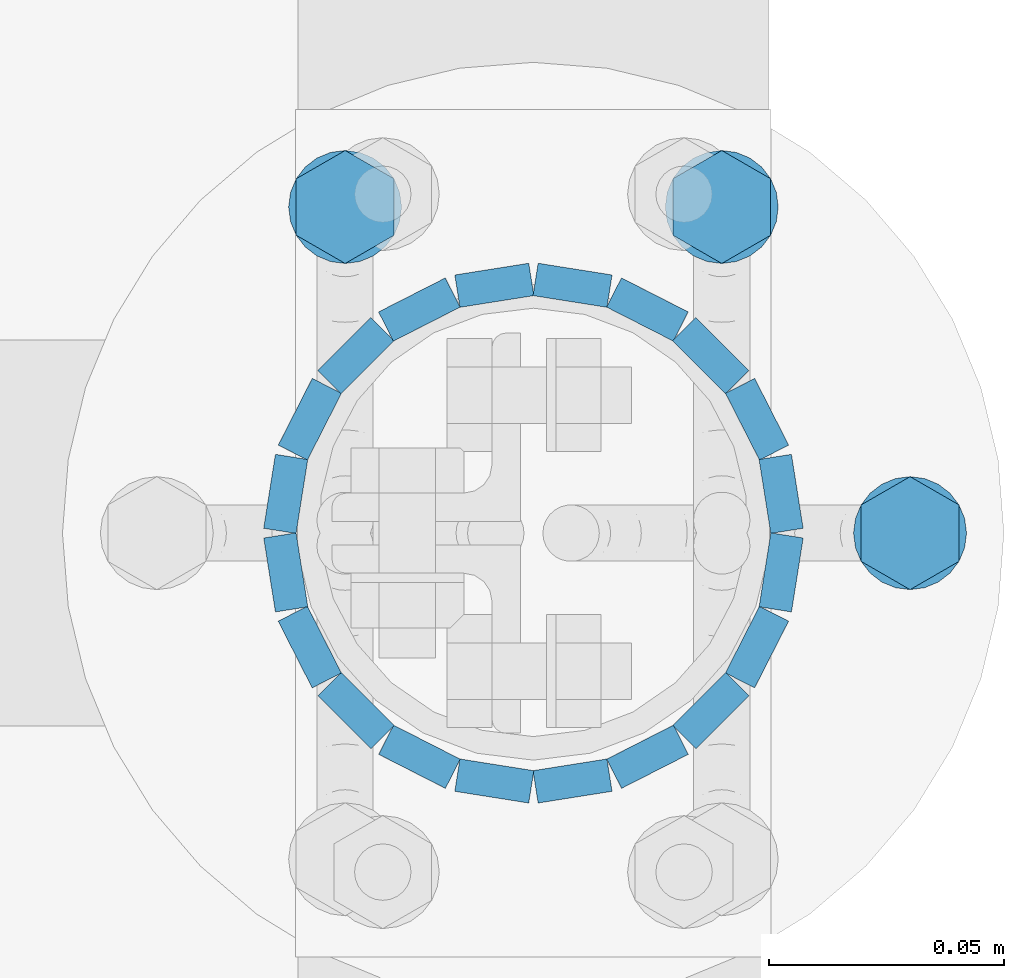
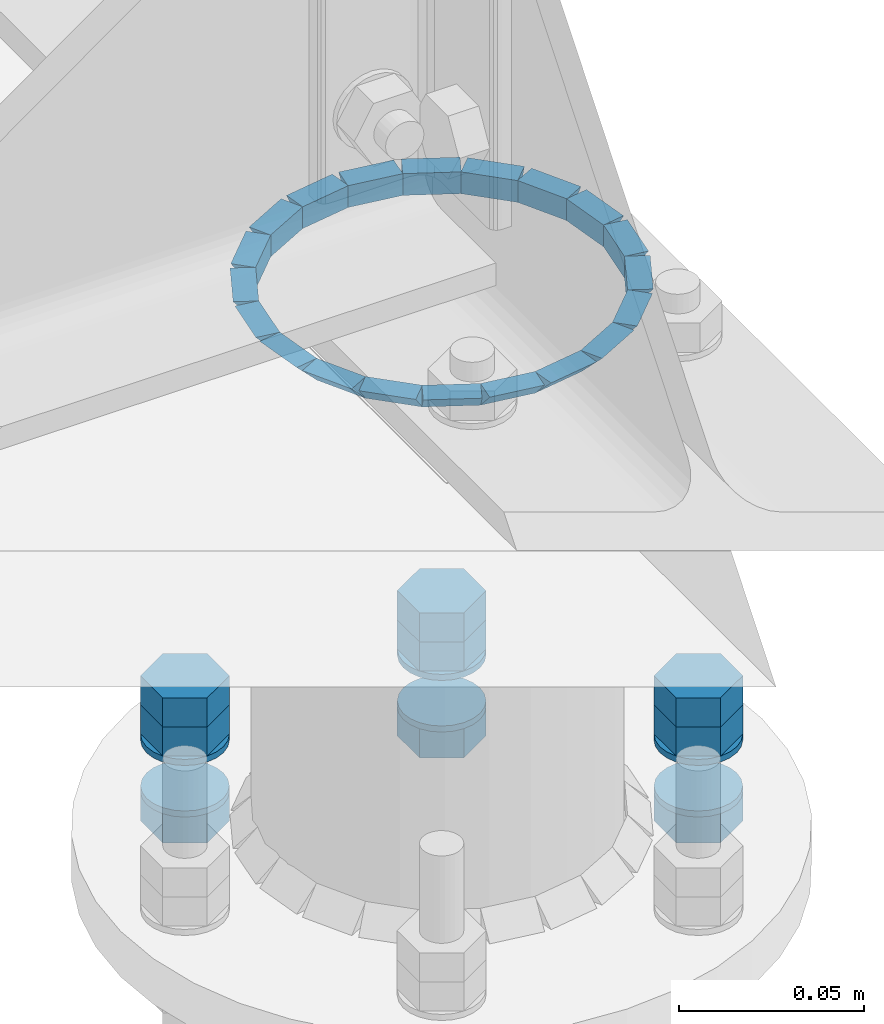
# One storey, part 29 of 84: 40 fasteners, 15 mechanical fasteners.
"""IFC4 building model written with IfcOpenShell, lengths in metres."""

from ifc_helpers import new_model, si_unit, frame, origin_with_axes, place, context, project, spatial, polyline, outline, extrude, type_object, element, save


model = new_model("IFC4")

# Units and contexts
model_context = context("Model", 3, precision=1e-05, world=origin_with_axes())
ifc_project = project(units=[si_unit("LENGTHUNIT", "METRE"), si_unit("AREAUNIT", "SQUARE_METRE"), si_unit("VOLUMEUNIT", "CUBIC_METRE"), si_unit("MASSUNIT", "GRAM", prefix="KILO"), si_unit("TIMEUNIT", "SECOND"), si_unit("PLANEANGLEUNIT", "RADIAN"), si_unit("SOLIDANGLEUNIT", "STERADIAN"), si_unit("THERMODYNAMICTEMPERATUREUNIT", "DEGREE_CELSIUS")], contexts=[model_context])

# Site, building, storey
placement_1 = place(None, origin_with_axes())
site = spatial("IfcSite", under=ifc_project, at=placement_1, Name="Italia", CompositionType="ELEMENT")
building = spatial("IfcBuilding", under=site, at=placement_1, Name="Tettoia", CompositionType="ELEMENT")
storey_placement = place(None, frame((0.0, 0.0, 4.199999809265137), z_axis=(0.0, 0.0, 1.0), x_axis=(1.0, 0.0, 0.0)))
storey = spatial("IfcBuildingStorey", under=building, at=storey_placement, Name="Storey 1", CompositionType="ELEMENT", Elevation=4.199999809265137)

# Mechanical fasteners
mechanical_fastener_type_1 = type_object("IfcMechanicalFastenerType", Name="Collegamento -004_0104", PredefinedType="BOLT")
placement_2 = place(placement_1, origin_with_axes())
mechanical_fastener_1_placement = place(placement_2, origin_with_axes())
element("IfcMechanicalFastener", 1, at=mechanical_fastener_1_placement, inside=storey, type_object=mechanical_fastener_type_1, Name="Collegamento -004_0104", NominalDiameter=0.0119999, context=model_context, shape_type="SweptSolid", body=[
    extrude(outline(polyline([(0.0, 0.0), (-0.0120001, 0.0), (-0.0180001, 0.0103922), (-0.0120001, 0.0207844), (0.0, 0.0207844), (0.00600004, 0.0103922), (0.0, 0.0)])), frame((11.3804, 4.656, 4.017), z_axis=(0.0, 0.0, 1.0), x_axis=(0.0, 1.0, 0.0)), (0.0, 0.0, 1.0), 0.00959969),
])
mechanical_fastener_type_2 = type_object("IfcMechanicalFastenerType", Name="Collegamento -004_0104", PredefinedType="BOLT")
mechanical_fastener_2_placement = place(placement_2, origin_with_axes())
element("IfcMechanicalFastener", 2, at=mechanical_fastener_2_placement, inside=storey, type_object=mechanical_fastener_type_2, Name="Collegamento -004_0104", NominalDiameter=0.0119999, context=model_context, shape_type="SweptSolid", body=[
    extrude(outline(polyline([(0.0, 0.0), (-0.0120001, 0.0), (-0.0180001, 0.0103922), (-0.0120001, 0.0207844), (0.0, 0.0207844), (0.00600004, 0.0103922), (0.0, 0.0)])), frame((11.3804, 4.656, 4.0266), z_axis=(0.0, 0.0, 1.0), x_axis=(0.0, 1.0, 0.0)), (0.0, 0.0, 1.0), 0.00960016),
])
mechanical_fastener_type_3 = type_object("IfcMechanicalFastenerType", Name="Collegamento -004_0104", PredefinedType="BOLT")
mechanical_fastener_3_placement = place(placement_2, origin_with_axes())
element("IfcMechanicalFastener", 3, at=mechanical_fastener_3_placement, inside=storey, type_object=mechanical_fastener_type_3, Name="Collegamento -004_0104", NominalDiameter=0.0119999, context=model_context, shape_type="SweptSolid", body=[
    extrude(outline(polyline([(0.0, 0.0), (-0.0120001, 0.0), (-0.0180001, 0.0103922), (-0.0120001, 0.0207844), (0.0, 0.0207844), (0.00600004, 0.0103922), (0.0, 0.0)])), frame((11.3804, 4.656, 3.9884), z_axis=(0.0, 0.0, 1.0), x_axis=(0.0, 1.0, 0.0)), (0.0, 0.0, 1.0), 0.00959992),
])
mechanical_fastener_type_4 = type_object("IfcMechanicalFastenerType", Name="Collegamento -004_0104", PredefinedType="BOLT")
mechanical_fastener_4_placement = place(placement_2, origin_with_axes())
element("IfcMechanicalFastener", 4, at=mechanical_fastener_4_placement, inside=storey, type_object=mechanical_fastener_type_4, Name="Collegamento -004_0104", NominalDiameter=0.024, context=model_context, shape_type="SweptSolid", body=[
    extrude(outline(polyline([(0.0, 0.0), (-0.000409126, -0.00310612), (-0.00160789, -0.00599957), (-0.00351477, -0.00848484), (-0.00600004, -0.0103922), (-0.00889444, -0.011591), (-0.0120001, -0.0120001), (-0.0151057, -0.011591), (-0.0180001, -0.0103922), (-0.0204854, -0.00848484), (-0.0223923, -0.00599957), (-0.023591, -0.00310612), (-0.0240002, 0.0), (-0.023591, 0.00310612), (-0.0223923, 0.00599957), (-0.0204854, 0.00848484), (-0.0180001, 0.0103922), (-0.0151057, 0.011591), (-0.0120001, 0.0120001), (-0.00889444, 0.011591), (-0.00600004, 0.0103922), (-0.00351477, 0.00848484), (-0.00160789, 0.00599957), (-0.000409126, 0.00310612), (0.0, 0.0)])), frame((11.37, 4.662, 4.015), z_axis=(0.0, 0.0, 1.0), x_axis=(0.0, 1.0, 0.0)), (0.0, 0.0, 1.0), 0.00200033),
])
mechanical_fastener_type_5 = type_object("IfcMechanicalFastenerType", Name="Collegamento -004_0104", PredefinedType="BOLT")
mechanical_fastener_5_placement = place(placement_2, origin_with_axes())
element("IfcMechanicalFastener", 5, at=mechanical_fastener_5_placement, inside=storey, type_object=mechanical_fastener_type_5, Name="Collegamento -004_0104", NominalDiameter=0.024, context=model_context, shape_type="SweptSolid", body=[
    extrude(outline(polyline([(0.0, 0.0), (-0.000409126, -0.00310612), (-0.00160789, -0.00599957), (-0.00351477, -0.00848484), (-0.00600004, -0.0103922), (-0.00889444, -0.011591), (-0.0120001, -0.0120001), (-0.0151057, -0.011591), (-0.0180001, -0.0103922), (-0.0204854, -0.00848484), (-0.0223923, -0.00599957), (-0.023591, -0.00310612), (-0.0240002, 0.0), (-0.023591, 0.00310612), (-0.0223923, 0.00599957), (-0.0204854, 0.00848484), (-0.0180001, 0.0103922), (-0.0151057, 0.011591), (-0.0120001, 0.0120001), (-0.00889444, 0.011591), (-0.00600004, 0.0103922), (-0.00351477, 0.00848484), (-0.00160789, 0.00599957), (-0.000409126, 0.00310612), (0.0, 0.0)])), frame((11.37, 4.662, 3.998), z_axis=(0.0, 0.0, 1.0), x_axis=(0.0, 1.0, 0.0)), (0.0, 0.0, 1.0), 0.00200009),
])
mechanical_fastener_type_6 = type_object("IfcMechanicalFastenerType", Name="Collegamento -004_0104", PredefinedType="BOLT")
mechanical_fastener_6_placement = place(placement_2, origin_with_axes())
element("IfcMechanicalFastener", 6, at=mechanical_fastener_6_placement, inside=storey, type_object=mechanical_fastener_type_6, Name="Collegamento -004_0104", NominalDiameter=0.0119999, context=model_context, shape_type="SweptSolid", body=[
    extrude(outline(polyline([(0.0, 0.0), (-0.0120001, 0.0), (-0.0180001, 0.0103922), (-0.0120001, 0.0207844), (0.0, 0.0207844), (0.00600004, 0.0103922), (0.0, 0.0)])), frame((11.3404, 4.72528, 4.017), z_axis=(0.0, 0.0, 1.0), x_axis=(0.0, 1.0, 0.0)), (0.0, 0.0, 1.0), 0.00959969),
])
mechanical_fastener_type_7 = type_object("IfcMechanicalFastenerType", Name="Collegamento -004_0104", PredefinedType="BOLT")
mechanical_fastener_7_placement = place(placement_2, origin_with_axes())
element("IfcMechanicalFastener", 7, at=mechanical_fastener_7_placement, inside=storey, type_object=mechanical_fastener_type_7, Name="Collegamento -004_0104", NominalDiameter=0.0119999, context=model_context, shape_type="SweptSolid", body=[
    extrude(outline(polyline([(0.0, 0.0), (-0.0120001, 0.0), (-0.0180001, 0.0103922), (-0.0120001, 0.0207844), (0.0, 0.0207844), (0.00600004, 0.0103922), (0.0, 0.0)])), frame((11.3404, 4.72528, 4.0266), z_axis=(0.0, 0.0, 1.0), x_axis=(0.0, 1.0, 0.0)), (0.0, 0.0, 1.0), 0.00960016),
])
mechanical_fastener_type_8 = type_object("IfcMechanicalFastenerType", Name="Collegamento -004_0104", PredefinedType="BOLT")
mechanical_fastener_8_placement = place(placement_2, origin_with_axes())
element("IfcMechanicalFastener", 8, at=mechanical_fastener_8_placement, inside=storey, type_object=mechanical_fastener_type_8, Name="Collegamento -004_0104", NominalDiameter=0.0119999, context=model_context, shape_type="SweptSolid", body=[
    extrude(outline(polyline([(0.0, 0.0), (-0.0120001, 0.0), (-0.0180001, 0.0103922), (-0.0120001, 0.0207844), (0.0, 0.0207844), (0.00600004, 0.0103922), (0.0, 0.0)])), frame((11.3404, 4.72528, 3.9884), z_axis=(0.0, 0.0, 1.0), x_axis=(0.0, 1.0, 0.0)), (0.0, 0.0, 1.0), 0.00959992),
])
mechanical_fastener_type_9 = type_object("IfcMechanicalFastenerType", Name="Collegamento -004_0104", PredefinedType="BOLT")
mechanical_fastener_9_placement = place(placement_2, origin_with_axes())
element("IfcMechanicalFastener", 9, at=mechanical_fastener_9_placement, inside=storey, type_object=mechanical_fastener_type_9, Name="Collegamento -004_0104", NominalDiameter=0.024, context=model_context, shape_type="SweptSolid", body=[
    extrude(outline(polyline([(0.0, 0.0), (-0.000409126, -0.00310612), (-0.00160789, -0.00599957), (-0.00351477, -0.00848484), (-0.00600004, -0.0103922), (-0.00889444, -0.011591), (-0.0120001, -0.0120001), (-0.0151057, -0.011591), (-0.0180001, -0.0103922), (-0.0204854, -0.00848484), (-0.0223923, -0.00599957), (-0.023591, -0.00310612), (-0.0240002, 0.0), (-0.023591, 0.00310612), (-0.0223923, 0.00599957), (-0.0204854, 0.00848484), (-0.0180001, 0.0103922), (-0.0151057, 0.011591), (-0.0120001, 0.0120001), (-0.00889444, 0.011591), (-0.00600004, 0.0103922), (-0.00351477, 0.00848484), (-0.00160789, 0.00599957), (-0.000409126, 0.00310612), (0.0, 0.0)])), frame((11.33, 4.73128, 4.015), z_axis=(0.0, 0.0, 1.0), x_axis=(0.0, 1.0, 0.0)), (0.0, 0.0, 1.0), 0.00200033),
])
mechanical_fastener_type_10 = type_object("IfcMechanicalFastenerType", Name="Collegamento -004_0104", PredefinedType="BOLT")
mechanical_fastener_10_placement = place(placement_2, origin_with_axes())
element("IfcMechanicalFastener", 10, at=mechanical_fastener_10_placement, inside=storey, type_object=mechanical_fastener_type_10, Name="Collegamento -004_0104", NominalDiameter=0.024, context=model_context, shape_type="SweptSolid", body=[
    extrude(outline(polyline([(0.0, 0.0), (-0.000409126, -0.00310612), (-0.00160789, -0.00599957), (-0.00351477, -0.00848484), (-0.00600004, -0.0103922), (-0.00889444, -0.011591), (-0.0120001, -0.0120001), (-0.0151057, -0.011591), (-0.0180001, -0.0103922), (-0.0204854, -0.00848484), (-0.0223923, -0.00599957), (-0.023591, -0.00310612), (-0.0240002, 0.0), (-0.023591, 0.00310612), (-0.0223923, 0.00599957), (-0.0204854, 0.00848484), (-0.0180001, 0.0103922), (-0.0151057, 0.011591), (-0.0120001, 0.0120001), (-0.00889444, 0.011591), (-0.00600004, 0.0103922), (-0.00351477, 0.00848484), (-0.00160789, 0.00599957), (-0.000409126, 0.00310612), (0.0, 0.0)])), frame((11.33, 4.73128, 3.998), z_axis=(0.0, 0.0, 1.0), x_axis=(0.0, 1.0, 0.0)), (0.0, 0.0, 1.0), 0.00200009),
])
mechanical_fastener_type_11 = type_object("IfcMechanicalFastenerType", Name="Collegamento -004_0104", PredefinedType="BOLT")
mechanical_fastener_11_placement = place(placement_2, origin_with_axes())
element("IfcMechanicalFastener", 11, at=mechanical_fastener_11_placement, inside=storey, type_object=mechanical_fastener_type_11, Name="Collegamento -004_0104", NominalDiameter=0.0119999, context=model_context, shape_type="SweptSolid", body=[
    extrude(outline(polyline([(0.0, 0.0), (-0.0120001, 0.0), (-0.0180001, 0.0103922), (-0.0120001, 0.0207844), (0.0, 0.0207844), (0.00600004, 0.0103922), (0.0, 0.0)])), frame((11.2604, 4.72528, 4.017), z_axis=(0.0, 0.0, 1.0), x_axis=(0.0, 1.0, 0.0)), (0.0, 0.0, 1.0), 0.00959969),
])
mechanical_fastener_type_12 = type_object("IfcMechanicalFastenerType", Name="Collegamento -004_0104", PredefinedType="BOLT")
mechanical_fastener_12_placement = place(placement_2, origin_with_axes())
element("IfcMechanicalFastener", 12, at=mechanical_fastener_12_placement, inside=storey, type_object=mechanical_fastener_type_12, Name="Collegamento -004_0104", NominalDiameter=0.0119999, context=model_context, shape_type="SweptSolid", body=[
    extrude(outline(polyline([(0.0, 0.0), (-0.0120001, 0.0), (-0.0180001, 0.0103922), (-0.0120001, 0.0207844), (0.0, 0.0207844), (0.00600004, 0.0103922), (0.0, 0.0)])), frame((11.2604, 4.72528, 4.0266), z_axis=(0.0, 0.0, 1.0), x_axis=(0.0, 1.0, 0.0)), (0.0, 0.0, 1.0), 0.00960016),
])
mechanical_fastener_type_13 = type_object("IfcMechanicalFastenerType", Name="Collegamento -004_0104", PredefinedType="BOLT")
mechanical_fastener_13_placement = place(placement_2, origin_with_axes())
element("IfcMechanicalFastener", 13, at=mechanical_fastener_13_placement, inside=storey, type_object=mechanical_fastener_type_13, Name="Collegamento -004_0104", NominalDiameter=0.0119999, context=model_context, shape_type="SweptSolid", body=[
    extrude(outline(polyline([(0.0, 0.0), (-0.0120001, 0.0), (-0.0180001, 0.0103922), (-0.0120001, 0.0207844), (0.0, 0.0207844), (0.00600004, 0.0103922), (0.0, 0.0)])), frame((11.2604, 4.72528, 3.9884), z_axis=(0.0, 0.0, 1.0), x_axis=(0.0, 1.0, 0.0)), (0.0, 0.0, 1.0), 0.00959992),
])
mechanical_fastener_type_14 = type_object("IfcMechanicalFastenerType", Name="Collegamento -004_0104", PredefinedType="BOLT")
mechanical_fastener_14_placement = place(placement_2, origin_with_axes())
element("IfcMechanicalFastener", 14, at=mechanical_fastener_14_placement, inside=storey, type_object=mechanical_fastener_type_14, Name="Collegamento -004_0104", NominalDiameter=0.024, context=model_context, shape_type="SweptSolid", body=[
    extrude(outline(polyline([(0.0, 0.0), (-0.000409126, -0.00310612), (-0.00160789, -0.00599957), (-0.00351477, -0.00848484), (-0.00600004, -0.0103922), (-0.00889444, -0.011591), (-0.0120001, -0.0120001), (-0.0151057, -0.011591), (-0.0180001, -0.0103922), (-0.0204854, -0.00848484), (-0.0223923, -0.00599957), (-0.023591, -0.00310612), (-0.0240002, 0.0), (-0.023591, 0.00310612), (-0.0223923, 0.00599957), (-0.0204854, 0.00848484), (-0.0180001, 0.0103922), (-0.0151057, 0.011591), (-0.0120001, 0.0120001), (-0.00889444, 0.011591), (-0.00600004, 0.0103922), (-0.00351477, 0.00848484), (-0.00160789, 0.00599957), (-0.000409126, 0.00310612), (0.0, 0.0)])), frame((11.25, 4.73128, 4.015), z_axis=(0.0, 0.0, 1.0), x_axis=(0.0, 1.0, 0.0)), (0.0, 0.0, 1.0), 0.00200033),
])
mechanical_fastener_type_15 = type_object("IfcMechanicalFastenerType", Name="Collegamento -004_0104", PredefinedType="BOLT")
mechanical_fastener_15_placement = place(placement_2, origin_with_axes())
element("IfcMechanicalFastener", 15, at=mechanical_fastener_15_placement, inside=storey, type_object=mechanical_fastener_type_15, Name="Collegamento -004_0104", NominalDiameter=0.024, context=model_context, shape_type="SweptSolid", body=[
    extrude(outline(polyline([(0.0, 0.0), (-0.000409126, -0.00310612), (-0.00160789, -0.00599957), (-0.00351477, -0.00848484), (-0.00600004, -0.0103922), (-0.00889444, -0.011591), (-0.0120001, -0.0120001), (-0.0151057, -0.011591), (-0.0180001, -0.0103922), (-0.0204854, -0.00848484), (-0.0223923, -0.00599957), (-0.023591, -0.00310612), (-0.0240002, 0.0), (-0.023591, 0.00310612), (-0.0223923, 0.00599957), (-0.0204854, 0.00848484), (-0.0180001, 0.0103922), (-0.0151057, 0.011591), (-0.0120001, 0.0120001), (-0.00889444, 0.011591), (-0.00600004, 0.0103922), (-0.00351477, 0.00848484), (-0.00160789, 0.00599957), (-0.000409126, 0.00310612), (0.0, 0.0)])), frame((11.25, 4.73128, 3.998), z_axis=(0.0, 0.0, 1.0), x_axis=(0.0, 1.0, 0.0)), (0.0, 0.0, 1.0), 0.00200009),
])

# Fasteners
fastener_type_1 = type_object("IfcFastenerType", Name="Collegamento 0104_-004", PredefinedType="WELD")
fastener_1_placement = place(placement_2, origin_with_axes())
element("IfcFastener", 16, at=fastener_1_placement, inside=storey, type_object=fastener_type_1, Name="Collegamento 0104_-004", context=model_context, shape_type="SweptSolid", body=[
    extrude(outline(polyline([(0.0, 0.0), (-0.00695753, -0.00717354), (-0.00695753, 0.0), (0.0, 0.0)])), frame((11.291, 4.70733, 4.19505), z_axis=(0.987694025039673, -0.156398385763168, 0.0), x_axis=(0.156398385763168, 0.987694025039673, 0.0)), (0.0, 0.0, 1.0), 0.0158998),
])
fastener_type_2 = type_object("IfcFastenerType", Name="Collegamento 0104_-004", PredefinedType="WELD")
fastener_2_placement = place(placement_2, origin_with_axes())
element("IfcFastener", 17, at=fastener_2_placement, inside=storey, type_object=fastener_type_2, Name="Collegamento 0104_-004", context=model_context, shape_type="SweptSolid", body=[
    extrude(outline(polyline([(0.0, 0.0), (-0.00695801, -0.00717354), (-0.00695801, 0.0), (0.0, 0.0)])), frame((11.3087, 4.70421, 4.19505), z_axis=(0.891006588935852, -0.453990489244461, 0.0), x_axis=(0.453990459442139, 0.891006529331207, 0.0)), (0.0, 0.0, 1.0), 0.0158998),
])
fastener_type_3 = type_object("IfcFastenerType", Name="Collegamento 0104_-004", PredefinedType="WELD")
fastener_3_placement = place(placement_2, origin_with_axes())
element("IfcFastener", 18, at=fastener_3_placement, inside=storey, type_object=fastener_type_3, Name="Collegamento 0104_-004", context=model_context, shape_type="SweptSolid", body=[
    extrude(outline(polyline([(0.0, 0.0), (-0.00695801, -0.00717354), (-0.00695801, 0.0), (0.0, 0.0)])), frame((11.3245, 4.69578, 4.19505), z_axis=(0.70710676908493, -0.70710676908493, 0.0), x_axis=(0.70710676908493, 0.70710676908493, 0.0)), (0.0, 0.0, 1.0), 0.0158998),
])
fastener_type_4 = type_object("IfcFastenerType", Name="Collegamento 0104_-004", PredefinedType="WELD")
fastener_4_placement = place(placement_2, origin_with_axes())
element("IfcFastener", 19, at=fastener_4_placement, inside=storey, type_object=fastener_type_4, Name="Collegamento 0104_-004", context=model_context, shape_type="SweptSolid", body=[
    extrude(outline(polyline([(0.0, 0.0), (-0.00695896, -0.00717354), (-0.00695896, 0.0), (0.0, 0.0)])), frame((11.337, 4.68286, 4.19505), z_axis=(0.453990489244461, -0.891006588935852, 0.0), x_axis=(0.891006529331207, 0.453990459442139, 0.0)), (0.0, 0.0, 1.0), 0.0158998),
])
fastener_type_5 = type_object("IfcFastenerType", Name="Collegamento 0104_-004", PredefinedType="WELD")
fastener_5_placement = place(placement_2, origin_with_axes())
element("IfcFastener", 20, at=fastener_5_placement, inside=storey, type_object=fastener_type_5, Name="Collegamento 0104_-004", context=model_context, shape_type="SweptSolid", body=[
    extrude(outline(polyline([(0.0, 0.0), (-0.00695801, -0.00717354), (-0.00695801, 0.0), (0.0, 0.0)])), frame((11.3448, 4.66674, 4.19505), z_axis=(0.1564861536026, -0.987680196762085, 0.0), x_axis=(0.98768013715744, 0.156486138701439, 0.0)), (0.0, 0.0, 1.0), 0.0159),
])
fastener_type_6 = type_object("IfcFastenerType", Name="Collegamento 0104_-004", PredefinedType="WELD")
fastener_6_placement = place(placement_2, origin_with_axes())
element("IfcFastener", 21, at=fastener_6_placement, inside=storey, type_object=fastener_type_6, Name="Collegamento 0104_-004", context=model_context, shape_type="SweptSolid", body=[
    extrude(outline(polyline([(0.0, 0.0), (-0.00695896, -0.00717354), (-0.00695896, 0.0), (0.0, 0.0)])), frame((11.3473, 4.64897, 4.19505), z_axis=(-0.1564861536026, -0.987680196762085, 0.0), x_axis=(0.98768013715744, -0.156486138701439, 0.0)), (0.0, 0.0, 1.0), 0.0159),
])
fastener_type_7 = type_object("IfcFastenerType", Name="Collegamento 0104_-004", PredefinedType="WELD")
fastener_7_placement = place(placement_2, origin_with_axes())
element("IfcFastener", 22, at=fastener_7_placement, inside=storey, type_object=fastener_type_7, Name="Collegamento 0104_-004", context=model_context, shape_type="SweptSolid", body=[
    extrude(outline(polyline([(0.0, 0.0), (-0.00695848, -0.00717354), (-0.00695848, 0.0), (0.0, 0.0)])), frame((11.3442, 4.6313, 4.19505), z_axis=(-0.453990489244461, -0.891006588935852, 0.0), x_axis=(0.891006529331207, -0.453990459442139, 0.0)), (0.0, 0.0, 1.0), 0.0158998),
])
fastener_type_8 = type_object("IfcFastenerType", Name="Collegamento 0104_-004", PredefinedType="WELD")
fastener_8_placement = place(placement_2, origin_with_axes())
element("IfcFastener", 23, at=fastener_8_placement, inside=storey, type_object=fastener_type_8, Name="Collegamento 0104_-004", context=model_context, shape_type="SweptSolid", body=[
    extrude(outline(polyline([(0.0, 0.0), (-0.00695753, -0.00717354), (-0.00695753, 0.0), (0.0, 0.0)])), frame((11.3358, 4.61547, 4.19505), z_axis=(-0.70710676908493, -0.70710676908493, 0.0), x_axis=(0.70710676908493, -0.70710676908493, 0.0)), (0.0, 0.0, 1.0), 0.0158998),
])
fastener_type_9 = type_object("IfcFastenerType", Name="Collegamento 0104_-004", PredefinedType="WELD")
fastener_9_placement = place(placement_2, origin_with_axes())
element("IfcFastener", 24, at=fastener_9_placement, inside=storey, type_object=fastener_type_9, Name="Collegamento 0104_-004", context=model_context, shape_type="SweptSolid", body=[
    extrude(outline(polyline([(0.0, 0.0), (-0.00695801, -0.00717354), (-0.00695801, 0.0), (0.0, 0.0)])), frame((11.3229, 4.60301, 4.19505), z_axis=(-0.891006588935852, -0.453990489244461, 0.0), x_axis=(0.453990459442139, -0.891006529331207, 0.0)), (0.0, 0.0, 1.0), 0.0158998),
])
fastener_type_10 = type_object("IfcFastenerType", Name="Collegamento 0104_-004", PredefinedType="WELD")
fastener_10_placement = place(placement_2, origin_with_axes())
element("IfcFastener", 25, at=fastener_10_placement, inside=storey, type_object=fastener_type_10, Name="Collegamento 0104_-004", context=model_context, shape_type="SweptSolid", body=[
    extrude(outline(polyline([(0.0, 0.0), (-0.00695848, -0.00717354), (-0.00695848, 0.0), (0.0, 0.0)])), frame((11.3067, 4.59516, 4.19505), z_axis=(-0.987694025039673, -0.156398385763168, 0.0), x_axis=(0.156398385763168, -0.987694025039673, 0.0)), (0.0, 0.0, 1.0), 0.0158998),
])
fastener_type_11 = type_object("IfcFastenerType", Name="Collegamento 0104_-004", PredefinedType="WELD")
fastener_11_placement = place(placement_2, origin_with_axes())
element("IfcFastener", 26, at=fastener_11_placement, inside=storey, type_object=fastener_type_11, Name="Collegamento 0104_-004", context=model_context, shape_type="SweptSolid", body=[
    extrude(outline(polyline([(0.0, 0.0), (-0.00695801, -0.00717354), (-0.00695801, 0.0), (0.0, 0.0)])), frame((11.289, 4.59267, 4.19505), z_axis=(-0.987694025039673, 0.156398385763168, 0.0), x_axis=(-0.156398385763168, -0.987694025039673, 0.0)), (0.0, 0.0, 1.0), 0.0158998),
])
fastener_type_12 = type_object("IfcFastenerType", Name="Collegamento 0104_-004", PredefinedType="WELD")
fastener_12_placement = place(placement_2, origin_with_axes())
element("IfcFastener", 27, at=fastener_12_placement, inside=storey, type_object=fastener_type_12, Name="Collegamento 0104_-004", context=model_context, shape_type="SweptSolid", body=[
    extrude(outline(polyline([(0.0, 0.0), (-0.00695896, -0.00717354), (-0.00695896, 0.0), (0.0, 0.0)])), frame((11.2713, 4.59579, 4.19505), z_axis=(-0.891006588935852, 0.453990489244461, 0.0), x_axis=(-0.453990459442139, -0.891006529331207, 0.0)), (0.0, 0.0, 1.0), 0.0158998),
])
fastener_type_13 = type_object("IfcFastenerType", Name="Collegamento 0104_-004", PredefinedType="WELD")
fastener_13_placement = place(placement_2, origin_with_axes())
element("IfcFastener", 28, at=fastener_13_placement, inside=storey, type_object=fastener_type_13, Name="Collegamento 0104_-004", context=model_context, shape_type="SweptSolid", body=[
    extrude(outline(polyline([(0.0, 0.0), (-0.00695801, -0.00717354), (-0.00695801, 0.0), (0.0, 0.0)])), frame((11.2555, 4.60422, 4.19505), z_axis=(-0.70710676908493, 0.70710676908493, 0.0), x_axis=(-0.70710676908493, -0.70710676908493, 0.0)), (0.0, 0.0, 1.0), 0.0158998),
])
fastener_type_14 = type_object("IfcFastenerType", Name="Collegamento 0104_-004", PredefinedType="WELD")
fastener_14_placement = place(placement_2, origin_with_axes())
element("IfcFastener", 29, at=fastener_14_placement, inside=storey, type_object=fastener_type_14, Name="Collegamento 0104_-004", context=model_context, shape_type="SweptSolid", body=[
    extrude(outline(polyline([(0.0, 0.0), (-0.00695705, -0.00717354), (-0.00695705, 0.0), (0.0, 0.0)])), frame((11.243, 4.61714, 4.19505), z_axis=(-0.453990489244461, 0.891006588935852, 0.0), x_axis=(-0.891006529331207, -0.453990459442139, 0.0)), (0.0, 0.0, 1.0), 0.0158998),
])
fastener_type_15 = type_object("IfcFastenerType", Name="Collegamento 0104_-004", PredefinedType="WELD")
fastener_15_placement = place(placement_2, origin_with_axes())
element("IfcFastener", 30, at=fastener_15_placement, inside=storey, type_object=fastener_type_15, Name="Collegamento 0104_-004", context=model_context, shape_type="SweptSolid", body=[
    extrude(outline(polyline([(0.0, 0.0), (-0.00695896, -0.00717354), (-0.00695896, 0.0), (0.0, 0.0)])), frame((11.2352, 4.63326, 4.19505), z_axis=(-0.1564861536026, 0.987680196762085, 0.0), x_axis=(-0.98768013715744, -0.156486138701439, 0.0)), (0.0, 0.0, 1.0), 0.0159),
])
fastener_type_16 = type_object("IfcFastenerType", Name="Collegamento 0104_-004", PredefinedType="WELD")
fastener_16_placement = place(placement_2, origin_with_axes())
element("IfcFastener", 31, at=fastener_16_placement, inside=storey, type_object=fastener_type_16, Name="Collegamento 0104_-004", context=model_context, shape_type="SweptSolid", body=[
    extrude(outline(polyline([(0.0, 0.0), (-0.00695896, -0.00717354), (-0.00695896, 0.0), (0.0, 0.0)])), frame((11.2327, 4.65103, 4.19505), z_axis=(0.1564861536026, 0.987680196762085, 0.0), x_axis=(-0.98768013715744, 0.156486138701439, 0.0)), (0.0, 0.0, 1.0), 0.0159),
])
fastener_type_17 = type_object("IfcFastenerType", Name="Collegamento 0104_-004", PredefinedType="WELD")
fastener_17_placement = place(placement_2, origin_with_axes())
element("IfcFastener", 32, at=fastener_17_placement, inside=storey, type_object=fastener_type_17, Name="Collegamento 0104_-004", context=model_context, shape_type="SweptSolid", body=[
    extrude(outline(polyline([(0.0, 0.0), (-0.00695801, -0.00717354), (-0.00695801, 0.0), (0.0, 0.0)])), frame((11.2358, 4.6687, 4.19505), z_axis=(0.453990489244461, 0.891006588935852, 0.0), x_axis=(-0.891006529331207, 0.453990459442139, 0.0)), (0.0, 0.0, 1.0), 0.0158998),
])
fastener_type_18 = type_object("IfcFastenerType", Name="Collegamento 0104_-004", PredefinedType="WELD")
fastener_18_placement = place(placement_2, origin_with_axes())
element("IfcFastener", 33, at=fastener_18_placement, inside=storey, type_object=fastener_type_18, Name="Collegamento 0104_-004", context=model_context, shape_type="SweptSolid", body=[
    extrude(outline(polyline([(0.0, 0.0), (-0.00695801, -0.00717354), (-0.00695801, 0.0), (0.0, 0.0)])), frame((11.2442, 4.68453, 4.19505), z_axis=(0.70710676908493, 0.70710676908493, 0.0), x_axis=(-0.70710676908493, 0.70710676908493, 0.0)), (0.0, 0.0, 1.0), 0.0158998),
])
fastener_type_19 = type_object("IfcFastenerType", Name="Collegamento 0104_-004", PredefinedType="WELD")
fastener_19_placement = place(placement_2, origin_with_axes())
element("IfcFastener", 34, at=fastener_19_placement, inside=storey, type_object=fastener_type_19, Name="Collegamento 0104_-004", context=model_context, shape_type="SweptSolid", body=[
    extrude(outline(polyline([(0.0, 0.0), (-0.00695753, -0.00717354), (-0.00695753, 0.0), (0.0, 0.0)])), frame((11.2571, 4.69699, 4.19505), z_axis=(0.891006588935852, 0.453990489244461, 0.0), x_axis=(-0.453990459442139, 0.891006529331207, 0.0)), (0.0, 0.0, 1.0), 0.0158998),
])
fastener_type_20 = type_object("IfcFastenerType", Name="Collegamento 0104_-004", PredefinedType="WELD")
fastener_20_placement = place(placement_2, origin_with_axes())
element("IfcFastener", 35, at=fastener_20_placement, inside=storey, type_object=fastener_type_20, Name="Collegamento 0104_-004", context=model_context, shape_type="SweptSolid", body=[
    extrude(outline(polyline([(0.0, 0.0), (-0.00695801, -0.00717354), (-0.00695801, 0.0), (0.0, 0.0)])), frame((11.2733, 4.70484, 4.19505), z_axis=(0.987694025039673, 0.156398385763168, 0.0), x_axis=(-0.156398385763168, 0.987694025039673, 0.0)), (0.0, 0.0, 1.0), 0.0158998),
])
fastener_type_21 = type_object("IfcFastenerType", Name="Collegamento 0104_-004", PredefinedType="WELD")
fastener_21_placement = place(placement_2, origin_with_axes())
element("IfcFastener", 36, at=fastener_21_placement, inside=storey, type_object=fastener_type_21, Name="Collegamento 0104_-004", context=model_context, shape_type="SweptSolid", body=[
    extrude(outline(polyline([(0.0, 0.0), (-0.00695753, -0.00717354), (-0.00695753, 0.0), (0.0, 0.0)])), frame((11.291, 4.70733, 4.19505), z_axis=(0.987694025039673, -0.156398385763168, 0.0), x_axis=(0.156398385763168, 0.987694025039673, 0.0)), (0.0, 0.0, 1.0), 0.0158998),
])
fastener_type_22 = type_object("IfcFastenerType", Name="Collegamento 0104_-004", PredefinedType="WELD")
fastener_22_placement = place(placement_2, origin_with_axes())
element("IfcFastener", 37, at=fastener_22_placement, inside=storey, type_object=fastener_type_22, Name="Collegamento 0104_-004", context=model_context, shape_type="SweptSolid", body=[
    extrude(outline(polyline([(0.0, 0.0), (-0.00695801, -0.00717354), (-0.00695801, 0.0), (0.0, 0.0)])), frame((11.3087, 4.70421, 4.19505), z_axis=(0.891006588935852, -0.453990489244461, 0.0), x_axis=(0.453990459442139, 0.891006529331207, 0.0)), (0.0, 0.0, 1.0), 0.0158998),
])
fastener_type_23 = type_object("IfcFastenerType", Name="Collegamento 0104_-004", PredefinedType="WELD")
fastener_23_placement = place(placement_2, origin_with_axes())
element("IfcFastener", 38, at=fastener_23_placement, inside=storey, type_object=fastener_type_23, Name="Collegamento 0104_-004", context=model_context, shape_type="SweptSolid", body=[
    extrude(outline(polyline([(0.0, 0.0), (-0.00695801, -0.00717354), (-0.00695801, 0.0), (0.0, 0.0)])), frame((11.3245, 4.69578, 4.19505), z_axis=(0.70710676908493, -0.70710676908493, 0.0), x_axis=(0.70710676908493, 0.70710676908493, 0.0)), (0.0, 0.0, 1.0), 0.0158998),
])
fastener_type_24 = type_object("IfcFastenerType", Name="Collegamento 0104_-004", PredefinedType="WELD")
fastener_24_placement = place(placement_2, origin_with_axes())
element("IfcFastener", 39, at=fastener_24_placement, inside=storey, type_object=fastener_type_24, Name="Collegamento 0104_-004", context=model_context, shape_type="SweptSolid", body=[
    extrude(outline(polyline([(0.0, 0.0), (-0.00695896, -0.00717354), (-0.00695896, 0.0), (0.0, 0.0)])), frame((11.337, 4.68286, 4.19505), z_axis=(0.453990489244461, -0.891006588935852, 0.0), x_axis=(0.891006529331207, 0.453990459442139, 0.0)), (0.0, 0.0, 1.0), 0.0158998),
])
fastener_type_25 = type_object("IfcFastenerType", Name="Collegamento 0104_-004", PredefinedType="WELD")
fastener_25_placement = place(placement_2, origin_with_axes())
element("IfcFastener", 40, at=fastener_25_placement, inside=storey, type_object=fastener_type_25, Name="Collegamento 0104_-004", context=model_context, shape_type="SweptSolid", body=[
    extrude(outline(polyline([(0.0, 0.0), (-0.00695801, -0.00717354), (-0.00695801, 0.0), (0.0, 0.0)])), frame((11.3448, 4.66674, 4.19505), z_axis=(0.1564861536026, -0.987680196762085, 0.0), x_axis=(0.98768013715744, 0.156486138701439, 0.0)), (0.0, 0.0, 1.0), 0.0159),
])
fastener_type_26 = type_object("IfcFastenerType", Name="Collegamento 0104_-004", PredefinedType="WELD")
fastener_26_placement = place(placement_2, origin_with_axes())
element("IfcFastener", 41, at=fastener_26_placement, inside=storey, type_object=fastener_type_26, Name="Collegamento 0104_-004", context=model_context, shape_type="SweptSolid", body=[
    extrude(outline(polyline([(0.0, 0.0), (-0.00695896, -0.00717354), (-0.00695896, 0.0), (0.0, 0.0)])), frame((11.3473, 4.64897, 4.19505), z_axis=(-0.1564861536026, -0.987680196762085, 0.0), x_axis=(0.98768013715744, -0.156486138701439, 0.0)), (0.0, 0.0, 1.0), 0.0159),
])
fastener_type_27 = type_object("IfcFastenerType", Name="Collegamento 0104_-004", PredefinedType="WELD")
fastener_27_placement = place(placement_2, origin_with_axes())
element("IfcFastener", 42, at=fastener_27_placement, inside=storey, type_object=fastener_type_27, Name="Collegamento 0104_-004", context=model_context, shape_type="SweptSolid", body=[
    extrude(outline(polyline([(0.0, 0.0), (-0.00695848, -0.00717354), (-0.00695848, 0.0), (0.0, 0.0)])), frame((11.3442, 4.6313, 4.19505), z_axis=(-0.453990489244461, -0.891006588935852, 0.0), x_axis=(0.891006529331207, -0.453990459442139, 0.0)), (0.0, 0.0, 1.0), 0.0158998),
])
fastener_type_28 = type_object("IfcFastenerType", Name="Collegamento 0104_-004", PredefinedType="WELD")
fastener_28_placement = place(placement_2, origin_with_axes())
element("IfcFastener", 43, at=fastener_28_placement, inside=storey, type_object=fastener_type_28, Name="Collegamento 0104_-004", context=model_context, shape_type="SweptSolid", body=[
    extrude(outline(polyline([(0.0, 0.0), (-0.00695753, -0.00717354), (-0.00695753, 0.0), (0.0, 0.0)])), frame((11.3358, 4.61547, 4.19505), z_axis=(-0.70710676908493, -0.70710676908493, 0.0), x_axis=(0.70710676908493, -0.70710676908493, 0.0)), (0.0, 0.0, 1.0), 0.0158998),
])
fastener_type_29 = type_object("IfcFastenerType", Name="Collegamento 0104_-004", PredefinedType="WELD")
fastener_29_placement = place(placement_2, origin_with_axes())
element("IfcFastener", 44, at=fastener_29_placement, inside=storey, type_object=fastener_type_29, Name="Collegamento 0104_-004", context=model_context, shape_type="SweptSolid", body=[
    extrude(outline(polyline([(0.0, 0.0), (-0.00695801, -0.00717354), (-0.00695801, 0.0), (0.0, 0.0)])), frame((11.3229, 4.60301, 4.19505), z_axis=(-0.891006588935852, -0.453990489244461, 0.0), x_axis=(0.453990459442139, -0.891006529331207, 0.0)), (0.0, 0.0, 1.0), 0.0158998),
])
fastener_type_30 = type_object("IfcFastenerType", Name="Collegamento 0104_-004", PredefinedType="WELD")
fastener_30_placement = place(placement_2, origin_with_axes())
element("IfcFastener", 45, at=fastener_30_placement, inside=storey, type_object=fastener_type_30, Name="Collegamento 0104_-004", context=model_context, shape_type="SweptSolid", body=[
    extrude(outline(polyline([(0.0, 0.0), (-0.00695848, -0.00717354), (-0.00695848, 0.0), (0.0, 0.0)])), frame((11.3067, 4.59516, 4.19505), z_axis=(-0.987694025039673, -0.156398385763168, 0.0), x_axis=(0.156398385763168, -0.987694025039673, 0.0)), (0.0, 0.0, 1.0), 0.0158998),
])
fastener_type_31 = type_object("IfcFastenerType", Name="Collegamento 0104_-004", PredefinedType="WELD")
fastener_31_placement = place(placement_2, origin_with_axes())
element("IfcFastener", 46, at=fastener_31_placement, inside=storey, type_object=fastener_type_31, Name="Collegamento 0104_-004", context=model_context, shape_type="SweptSolid", body=[
    extrude(outline(polyline([(0.0, 0.0), (-0.00695801, -0.00717354), (-0.00695801, 0.0), (0.0, 0.0)])), frame((11.289, 4.59267, 4.19505), z_axis=(-0.987694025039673, 0.156398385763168, 0.0), x_axis=(-0.156398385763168, -0.987694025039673, 0.0)), (0.0, 0.0, 1.0), 0.0158998),
])
fastener_type_32 = type_object("IfcFastenerType", Name="Collegamento 0104_-004", PredefinedType="WELD")
fastener_32_placement = place(placement_2, origin_with_axes())
element("IfcFastener", 47, at=fastener_32_placement, inside=storey, type_object=fastener_type_32, Name="Collegamento 0104_-004", context=model_context, shape_type="SweptSolid", body=[
    extrude(outline(polyline([(0.0, 0.0), (-0.00695896, -0.00717354), (-0.00695896, 0.0), (0.0, 0.0)])), frame((11.2713, 4.59579, 4.19505), z_axis=(-0.891006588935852, 0.453990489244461, 0.0), x_axis=(-0.453990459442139, -0.891006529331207, 0.0)), (0.0, 0.0, 1.0), 0.0158998),
])
fastener_type_33 = type_object("IfcFastenerType", Name="Collegamento 0104_-004", PredefinedType="WELD")
fastener_33_placement = place(placement_2, origin_with_axes())
element("IfcFastener", 48, at=fastener_33_placement, inside=storey, type_object=fastener_type_33, Name="Collegamento 0104_-004", context=model_context, shape_type="SweptSolid", body=[
    extrude(outline(polyline([(0.0, 0.0), (-0.00695801, -0.00717354), (-0.00695801, 0.0), (0.0, 0.0)])), frame((11.2555, 4.60422, 4.19505), z_axis=(-0.70710676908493, 0.70710676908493, 0.0), x_axis=(-0.70710676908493, -0.70710676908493, 0.0)), (0.0, 0.0, 1.0), 0.0158998),
])
fastener_type_34 = type_object("IfcFastenerType", Name="Collegamento 0104_-004", PredefinedType="WELD")
fastener_34_placement = place(placement_2, origin_with_axes())
element("IfcFastener", 49, at=fastener_34_placement, inside=storey, type_object=fastener_type_34, Name="Collegamento 0104_-004", context=model_context, shape_type="SweptSolid", body=[
    extrude(outline(polyline([(0.0, 0.0), (-0.00695705, -0.00717354), (-0.00695705, 0.0), (0.0, 0.0)])), frame((11.243, 4.61714, 4.19505), z_axis=(-0.453990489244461, 0.891006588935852, 0.0), x_axis=(-0.891006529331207, -0.453990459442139, 0.0)), (0.0, 0.0, 1.0), 0.0158998),
])
fastener_type_35 = type_object("IfcFastenerType", Name="Collegamento 0104_-004", PredefinedType="WELD")
fastener_35_placement = place(placement_2, origin_with_axes())
element("IfcFastener", 50, at=fastener_35_placement, inside=storey, type_object=fastener_type_35, Name="Collegamento 0104_-004", context=model_context, shape_type="SweptSolid", body=[
    extrude(outline(polyline([(0.0, 0.0), (-0.00695896, -0.00717354), (-0.00695896, 0.0), (0.0, 0.0)])), frame((11.2352, 4.63326, 4.19505), z_axis=(-0.1564861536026, 0.987680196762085, 0.0), x_axis=(-0.98768013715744, -0.156486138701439, 0.0)), (0.0, 0.0, 1.0), 0.0159),
])
fastener_type_36 = type_object("IfcFastenerType", Name="Collegamento 0104_-004", PredefinedType="WELD")
fastener_36_placement = place(placement_2, origin_with_axes())
element("IfcFastener", 51, at=fastener_36_placement, inside=storey, type_object=fastener_type_36, Name="Collegamento 0104_-004", context=model_context, shape_type="SweptSolid", body=[
    extrude(outline(polyline([(0.0, 0.0), (-0.00695896, -0.00717354), (-0.00695896, 0.0), (0.0, 0.0)])), frame((11.2327, 4.65103, 4.19505), z_axis=(0.1564861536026, 0.987680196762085, 0.0), x_axis=(-0.98768013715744, 0.156486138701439, 0.0)), (0.0, 0.0, 1.0), 0.0159),
])
fastener_type_37 = type_object("IfcFastenerType", Name="Collegamento 0104_-004", PredefinedType="WELD")
fastener_37_placement = place(placement_2, origin_with_axes())
element("IfcFastener", 52, at=fastener_37_placement, inside=storey, type_object=fastener_type_37, Name="Collegamento 0104_-004", context=model_context, shape_type="SweptSolid", body=[
    extrude(outline(polyline([(0.0, 0.0), (-0.00695801, -0.00717354), (-0.00695801, 0.0), (0.0, 0.0)])), frame((11.2358, 4.6687, 4.19505), z_axis=(0.453990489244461, 0.891006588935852, 0.0), x_axis=(-0.891006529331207, 0.453990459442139, 0.0)), (0.0, 0.0, 1.0), 0.0158998),
])
fastener_type_38 = type_object("IfcFastenerType", Name="Collegamento 0104_-004", PredefinedType="WELD")
fastener_38_placement = place(placement_2, origin_with_axes())
element("IfcFastener", 53, at=fastener_38_placement, inside=storey, type_object=fastener_type_38, Name="Collegamento 0104_-004", context=model_context, shape_type="SweptSolid", body=[
    extrude(outline(polyline([(0.0, 0.0), (-0.00695801, -0.00717354), (-0.00695801, 0.0), (0.0, 0.0)])), frame((11.2442, 4.68453, 4.19505), z_axis=(0.70710676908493, 0.70710676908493, 0.0), x_axis=(-0.70710676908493, 0.70710676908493, 0.0)), (0.0, 0.0, 1.0), 0.0158998),
])
fastener_type_39 = type_object("IfcFastenerType", Name="Collegamento 0104_-004", PredefinedType="WELD")
fastener_39_placement = place(placement_2, origin_with_axes())
element("IfcFastener", 54, at=fastener_39_placement, inside=storey, type_object=fastener_type_39, Name="Collegamento 0104_-004", context=model_context, shape_type="SweptSolid", body=[
    extrude(outline(polyline([(0.0, 0.0), (-0.00695753, -0.00717354), (-0.00695753, 0.0), (0.0, 0.0)])), frame((11.2571, 4.69699, 4.19505), z_axis=(0.891006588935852, 0.453990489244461, 0.0), x_axis=(-0.453990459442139, 0.891006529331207, 0.0)), (0.0, 0.0, 1.0), 0.0158998),
])
fastener_type_40 = type_object("IfcFastenerType", Name="Collegamento 0104_-004", PredefinedType="WELD")
fastener_40_placement = place(placement_2, origin_with_axes())
element("IfcFastener", 55, at=fastener_40_placement, inside=storey, type_object=fastener_type_40, Name="Collegamento 0104_-004", context=model_context, shape_type="SweptSolid", body=[
    extrude(outline(polyline([(0.0, 0.0), (-0.00695801, -0.00717354), (-0.00695801, 0.0), (0.0, 0.0)])), frame((11.2733, 4.70484, 4.19505), z_axis=(0.987694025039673, 0.156398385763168, 0.0), x_axis=(-0.156398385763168, 0.987694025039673, 0.0)), (0.0, 0.0, 1.0), 0.0158998),
])

save(model, "model.ifc")
